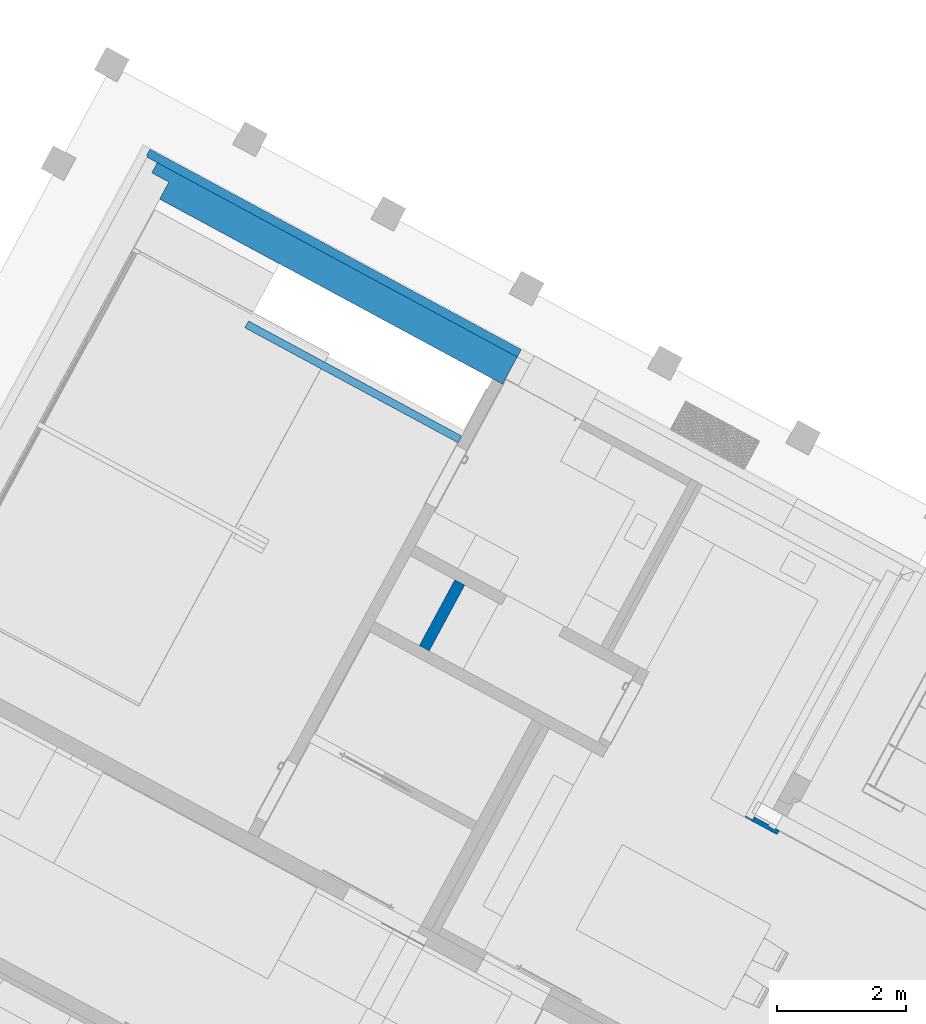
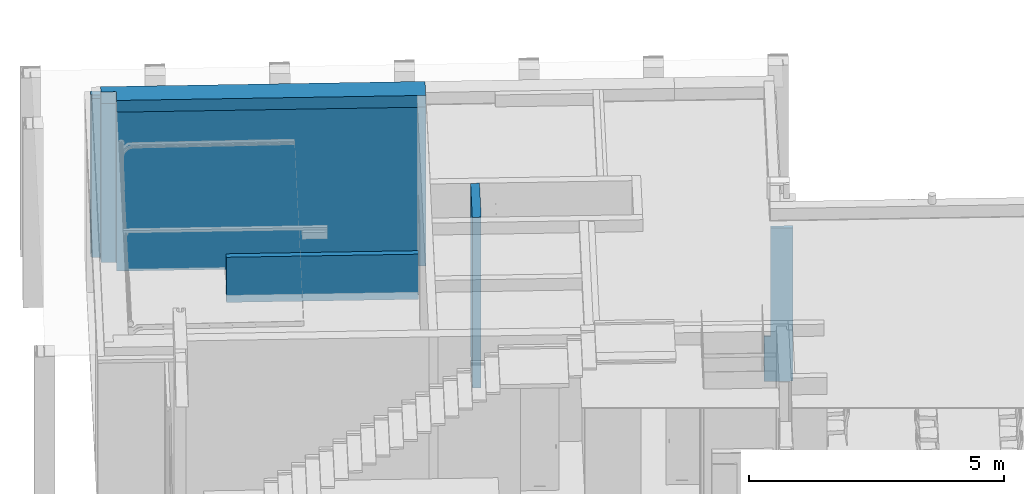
# One storey, part 19 of 52: 5 walls.
"""IFC2X3 building model written with IfcOpenShell, lengths in metres."""

from ifc_helpers import new_model, entity, si_unit, converted_unit, derived_unit, money_unit, direction, frame, origin_with_axes, place, context, subcontext, project, spatial, faceted_brep, material, material_list, type_object, element, save


model = new_model("IFC2X3")

# Units and contexts
model_context = context("Model", 3, precision=1e-05, world=origin_with_axes(), true_north=direction((0.0, 1.0)))
body_context = subcontext(model_context, "Body", "Model", "MODEL_VIEW")
ifc_project = project(units=[si_unit("LENGTHUNIT", "METRE"), si_unit("AREAUNIT", "SQUARE_METRE"), si_unit("VOLUMEUNIT", "CUBIC_METRE"), converted_unit("PLANEANGLEUNIT", "DEGREE", entity("IfcPlaneAngleMeasure", 0.0174532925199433), si_unit("PLANEANGLEUNIT", "RADIAN"), dimensions=[0, 0, 0, 0, 0, 0, 0]), money_unit("EUR"), converted_unit("TIMEUNIT", "Year", entity("IfcTimeMeasure", 31556926.0), si_unit("TIMEUNIT", "SECOND"), dimensions=[0, 0, 1, 0, 0, 0, 0]), si_unit("MASSUNIT", "GRAM", prefix="KILO"), si_unit("THERMODYNAMICTEMPERATUREUNIT", "DEGREE_CELSIUS"), si_unit("LUMINOUSINTENSITYUNIT", "LUMEN"), si_unit("ENERGYUNIT", "JOULE", prefix="MEGA"), derived_unit("THERMALCONDUCTANCEUNIT", [(si_unit("POWERUNIT", "WATT"), 1), (si_unit("LENGTHUNIT", "METRE"), -1), (si_unit("THERMODYNAMICTEMPERATUREUNIT", "KELVIN"), -1)]), derived_unit("SPECIFICHEATCAPACITYUNIT", [(si_unit("ENERGYUNIT", "JOULE"), 1), (si_unit("MASSUNIT", "GRAM", prefix="KILO"), -1), (si_unit("THERMODYNAMICTEMPERATUREUNIT", "KELVIN"), -1)]), derived_unit("MASSDENSITYUNIT", [(si_unit("MASSUNIT", "GRAM", prefix="KILO"), 1), (si_unit("VOLUMEUNIT", "CUBIC_METRE"), -1)])], contexts=[model_context])

# Site, building, storey
site_placement = place(None, frame((-3.949935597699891, 1.740105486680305, 0.0), z_axis=(0.0, 0.0, 1.0), x_axis=(0.8799804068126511, -0.475009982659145, 0.0)))
site = spatial("IfcSite", under=ifc_project, at=site_placement, Name="Gelände", CompositionType="ELEMENT")
building_placement = place(site_placement, origin_with_axes())
building = spatial("IfcBuilding", under=site, at=building_placement, Name="Gebäude", CompositionType="ELEMENT")
storey_placement = place(building_placement, origin_with_axes())
storey = spatial("IfcBuildingStorey", under=building, at=storey_placement, Name="Erdgeschoss", CompositionType="ELEMENT", Elevation=0.0)

# Walls
ifc_material_1 = material(Name="_SIWH - MW Kalksandstein")
wall_type_1 = type_object("IfcWallType", Name="_SIWH - WI | KS 17,5 | 17,5cm 175", PredefinedType="NOTDEFINED")
wall_1_placement = place(storey_placement, frame((11.32773525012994, 15.87469521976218, -0.18), z_axis=(0.0, 0.0, 1.0), x_axis=(1.943787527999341e-06, -0.9999999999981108, 0.0)))
element("IfcWall", 1, at=wall_1_placement, inside=storey, type_object=wall_type_1, material=ifc_material_1, Name="I-Wand024", context=body_context, shape_type="Brep", body=[
    faceted_brep([(1.161601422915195, 0.1750000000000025, 0.0), (1.161601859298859, 0.0, 0.0), (0.0, 0.0, 0.0), (-4.306483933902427e-07, 0.1749999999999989, 0.0), (1.161601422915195, 0.1750000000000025, 4.080000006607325), (1.161601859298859, 0.0, 4.080000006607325), (0.0, 0.0, 4.080000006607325), (-4.306483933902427e-07, 0.1750000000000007, 4.080000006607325)], [[[0, 1, 2, 3]], [[1, 0, 4, 5]], [[1, 5, 6, 2]], [[7, 3, 2, 6]], [[4, 0, 3, 7]], [[5, 4, 7, 6]]]),
])
ifc_material_2 = material(Name="_SIWH - Beton, Stahlbeton")
wall_type_2 = type_object("IfcWallType", Name="_SIWH - WI | Stb. 12 | 12cm 120", PredefinedType="NOTDEFINED")
wall_2_placement = place(storey_placement, frame((6.597401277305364, 17.89028332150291, -0.18), z_axis=(0.0, 0.0, 1.0), x_axis=(1.0, 0.0, 0.0)))
element("IfcWall", 2, at=wall_2_placement, inside=storey, type_object=wall_type_2, material=ifc_material_2, Name="I-Wand022", context=body_context, shape_type="Brep", body=[
    faceted_brep([(0.0, -0.120000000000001, 1.08), (3.764998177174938, -0.120000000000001, 1.08), (3.764998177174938, 0.0, 1.08), (0.0, 0.0, 1.08), (0.0, -0.120000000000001, 0.0), (3.764998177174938, -0.120000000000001, 0.0), (3.764998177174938, 0.0, 0.0), (0.0, 0.0, 0.0)], [[[0, 1, 2, 3]], [[4, 5, 1, 0]], [[2, 1, 5, 6]], [[3, 2, 6, 7]], [[4, 0, 3, 7]], [[7, 6, 5, 4]]]),
])
ifc_material_3 = material(Name="_SIWH - Installationswand, raumhoch")
ifc_material_4 = material(Name="_SIWH - Gipskarton")
ifc_material_list_1 = material_list([ifc_material_3, ifc_material_4, ifc_material_4])
wall_type_3 = type_object("IfcWallType", Name="_SIWH - WI | Vorsatz-GK 2-lagig | 7,5cm  75", PredefinedType="NOTDEFINED")
wall_3_placement = place(storey_placement, frame((17.16747696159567, 14.84304610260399, -0.3200000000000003), z_axis=(0.0, 0.0, 1.0), x_axis=(1.0, 0.0, 0.0)))
element("IfcWall", 3, at=wall_3_placement, inside=storey, type_object=wall_type_3, material=ifc_material_list_1, Name="L-Wand037", context=body_context, shape_type="Brep", body=[
    faceted_brep([(0.4450086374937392, -0.05000000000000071, 0.3200000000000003), (0.4450086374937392, 0.0, 0.3200000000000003), (0.4450086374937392, 0.0, 3.806181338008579), (0.4450086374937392, -0.04999999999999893, 3.806181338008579), (0.0, -2.783247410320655e-09, 0.3200000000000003), (0.0, -0.05000000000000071, 0.3200000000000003), (0.0, -1.669948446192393e-08, 1.22), (0.0, -1.669948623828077e-08, 3.806181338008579), (0.0, -0.04999999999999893, 3.806181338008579), (0.0, -0.05000000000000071, 1.22)], [[[0, 1, 2, 3]], [[4, 1, 0, 5]], [[1, 4, 6, 7, 2]], [[3, 2, 7, 8]], [[5, 0, 3, 8, 9]], [[4, 5, 9, 6]], [[7, 6, 9, 8]]]),
    faceted_brep([(0.2000042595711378, -0.05000000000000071, 0.1400000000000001), (0.2000042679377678, -0.0625, 0.1400000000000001), (-0.09999573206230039, -0.0625, 0.1400000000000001), (-0.09999574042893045, -0.05000000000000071, 0.1400000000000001), (0.4450086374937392, -0.05000000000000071, 0.1400000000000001), (0.4450086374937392, -0.0625, 0.1400000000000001), (0.4450086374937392, -0.0625, 3.806181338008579), (0.0, -0.0625, 3.806181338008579), (0.0, -0.0625, 1.22), (-0.125, -0.0625, 1.22), (-0.125, -0.0625, 0.1400000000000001), (-0.125, -0.05000000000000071, 0.1400000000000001), (-0.125, -0.04999999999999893, 1.22), (0.0, -0.04999999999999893, 1.22), (0.0, -0.04999999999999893, 3.806181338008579), (0.4450086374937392, -0.04999999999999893, 3.806181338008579)], [[[0, 1, 2, 3]], [[0, 4, 5, 1]], [[1, 5, 6, 7, 8, 9, 10, 2]], [[11, 3, 2, 10]], [[4, 0, 3, 11, 12, 13, 14, 15]], [[5, 4, 15, 6]], [[6, 15, 14, 7]], [[13, 8, 7, 14]], [[8, 13, 12, 9]], [[11, 10, 9, 12]]]),
    faceted_brep([(0.2000042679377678, -0.0625, 0.1400000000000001), (0.2000042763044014, -0.07499999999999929, 0.1400000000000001), (-0.09999572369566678, -0.07499999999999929, 0.1400000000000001), (-0.09999573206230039, -0.0625, 0.1400000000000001), (0.4450086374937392, -0.0625, 0.1400000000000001), (0.4450086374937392, -0.07499999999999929, 0.1400000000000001), (0.4450086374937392, -0.07499999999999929, 3.806181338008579), (0.0, -0.07499999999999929, 3.806181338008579), (0.0, -0.07499999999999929, 1.22), (-0.125, -0.07499999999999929, 1.22), (-0.125, -0.07499999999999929, 0.1400000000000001), (-0.125, -0.0625, 0.1400000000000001), (-0.125, -0.0625, 1.22), (0.0, -0.0625, 1.22), (0.0, -0.0625, 3.806181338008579), (0.4450086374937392, -0.0625, 3.806181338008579)], [[[0, 1, 2, 3]], [[0, 4, 5, 1]], [[1, 5, 6, 7, 8, 9, 10, 2]], [[11, 3, 2, 10]], [[4, 0, 3, 11, 12, 13, 14, 15]], [[5, 4, 15, 6]], [[6, 15, 14, 7]], [[13, 8, 7, 14]], [[8, 13, 12, 9]], [[11, 10, 9, 12]]]),
])
ifc_material_5 = material(Name="_SIWH - Dämmung, weich Mineralwolle")
ifc_material_6 = material(Name="_SIWH - Luftschicht vertikal")
ifc_material_7 = material(Name="_SIWH - MW Vormauerziegel")
ifc_material_list_2 = material_list([ifc_material_2, ifc_material_5, ifc_material_6, ifc_material_7])
wall_type_4 = type_object("IfcWallType", Name="_SIWH - WA | Stb. 30+WD 18+LS 2+Verblender 11,5 | 61,5 615", PredefinedType="NOTDEFINED")
wall_4_placement = place(storey_placement, frame((10.53739529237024, 19.20029480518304, -0.1800000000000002), z_axis=(0.0, 0.0, 1.0), x_axis=(-0.9999999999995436, 9.555231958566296e-07, 0.0)))
element("IfcWall", 4, at=wall_4_placement, inside=storey, type_object=wall_type_4, material=ifc_material_list_2, Name="A-Wand005", context=body_context, shape_type="Brep", body=[
    faceted_brep([(0.0, 0.0, 0.0), (0.0, 0.2999999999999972, 0.0), (6.054911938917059, 0.3000000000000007, 0.0), (6.054913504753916, 0.0, 0.0), (0.0, 0.0, 3.800000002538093), (0.0, 0.2999999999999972, 3.800000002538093), (6.054911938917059, 0.3000000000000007, 3.800000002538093), (6.054913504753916, 0.0, 3.800000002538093)], [[[0, 1, 2, 3]], [[4, 5, 1, 0]], [[1, 5, 6, 2]], [[7, 3, 2, 6]], [[4, 0, 3, 7]], [[5, 4, 7, 6]]]),
    faceted_brep([(0.0, 0.0, 0.0), (6.354913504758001, 0.0, 0.0), (6.354914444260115, -0.1800000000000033, 0.0), (0.0, -0.1799999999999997, 0.0), (0.0, 0.0, 3.800000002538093), (6.354913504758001, 0.0, 3.800000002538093), (6.354914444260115, -0.1800000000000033, 3.800000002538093), (0.0, -0.1799999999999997, 3.800000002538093)], [[[0, 1, 2, 3]], [[4, 5, 1, 0]], [[2, 1, 5, 6]], [[3, 2, 6, 7]], [[4, 0, 3, 7]], [[7, 6, 5, 4]]]),
    faceted_brep([(0.0, -0.1799999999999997, 0.0), (6.534914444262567, -0.1800000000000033, 0.0), (6.534914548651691, -0.1999999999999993, 0.0), (0.0, -0.1999999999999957, 0.0), (0.0, -0.1799999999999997, 3.800000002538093), (6.534914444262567, -0.1800000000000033, 3.800000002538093), (6.534914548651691, -0.1999999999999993, 3.800000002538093), (0.0, -0.1999999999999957, 3.800000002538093)], [[[0, 1, 2, 3]], [[4, 5, 1, 0]], [[2, 1, 5, 6]], [[3, 2, 6, 7]], [[4, 0, 3, 7]], [[7, 6, 5, 4]]]),
    faceted_brep([(0.0, -0.1999999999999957, 0.0), (6.554914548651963, -0.1999999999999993, 0.0), (6.554915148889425, -0.3150000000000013, 0.0), (0.0, -0.3150000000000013, 0.0), (0.0, -0.1999999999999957, 3.800000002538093), (6.554914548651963, -0.1999999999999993, 3.800000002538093), (6.554915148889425, -0.3150000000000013, 3.800000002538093), (0.0, -0.3150000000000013, 3.800000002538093)], [[[0, 1, 2, 3]], [[4, 5, 1, 0]], [[2, 1, 5, 6]], [[3, 2, 6, 7]], [[4, 0, 3, 7]], [[7, 6, 5, 4]]]),
])
ifc_material_list_3 = material_list([ifc_material_7, ifc_material_6, ifc_material_5, ifc_material_2])
wall_type_5 = type_object("IfcWallType", Name="_SIWH - Sturz Außenwand EG Garage 615 x 280", PredefinedType="NOTDEFINED")
wall_5_placement = place(storey_placement, frame((4.182481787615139, 19.20030087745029, 3.900000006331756), z_axis=(0.0, 0.0, 1.0), x_axis=(0.9999999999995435, -9.555231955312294e-07, 0.0)))
element("IfcWall", 5, at=wall_5_placement, inside=storey, type_object=wall_type_5, material=ifc_material_list_3, Name="A-Wand019", context=body_context, shape_type="Brep", body=[
    faceted_brep([(-0.2000016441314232, 0.3149999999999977, -0.2800000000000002), (-0.2000016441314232, 0.3149999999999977, -0.2000000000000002), (6.353914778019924, 0.3149999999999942, -0.2000000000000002), (6.353914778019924, 0.3149999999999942, -0.2800000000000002), (-0.2000010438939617, 0.1999999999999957, -0.2000000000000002), (-0.2000010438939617, 0.1999999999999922, -0.2800000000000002), (6.353914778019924, 0.1999999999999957, -0.2000000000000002), (6.353914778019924, 0.1999999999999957, -0.2800000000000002)], [[[0, 1, 2, 3]], [[4, 1, 0, 5]], [[1, 4, 6, 2]], [[7, 3, 2, 6]], [[5, 0, 3, 7]], [[4, 5, 7, 6]]]),
    faceted_brep([(-0.1800010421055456, 0.199999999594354, -0.2800000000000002), (-0.1800010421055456, 0.1999999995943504, -0.1999999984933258), (6.353914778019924, 0.1999999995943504, -0.2000000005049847), (6.353914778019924, 0.1999999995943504, -0.2800000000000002), (-0.1800009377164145, 0.1799999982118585, -0.1999999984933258), (-0.1800009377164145, 0.179999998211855, -0.2800000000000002), (6.353914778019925, 0.179999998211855, -0.1999999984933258), (6.353914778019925, 0.179999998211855, -0.2800000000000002)], [[[0, 1, 2, 3]], [[4, 1, 0, 5]], [[1, 4, 6, 2]], [[3, 2, 6, 7]], [[5, 0, 3, 7]], [[4, 5, 7, 6]]]),
    faceted_brep([(-9.390476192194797e-07, 0.1799999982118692, -0.2000000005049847), (-9.390476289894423e-07, 0.1799999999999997, 0.0), (6.353914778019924, 0.1799999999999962, 0.0), (6.353914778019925, 0.179999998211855, -0.1999999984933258), (4.544853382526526e-10, 0.0, 0.0), (4.544951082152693e-10, -1.788137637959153e-09, -0.2000000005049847), (6.353914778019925, 0.0, 0.0), (6.353914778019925, 0.0, -0.2800000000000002), (6.353914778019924, 0.1799999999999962, -0.2800000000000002), (-9.395021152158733e-07, 0.1799999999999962, -0.2800000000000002), (0.0, 0.0, -0.2800000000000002)], [[[0, 1, 2, 3]], [[4, 1, 0, 5]], [[1, 4, 6, 2]], [[7, 8, 3, 2, 6]], [[9, 0, 3, 8]], [[5, 0, 9, 10]], [[4, 5, 10, 7, 6]], [[10, 9, 8, 7]]]),
    faceted_brep([(0.3000000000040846, 0.0, -0.2000000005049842), (0.3000000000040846, 0.0, 0.0), (6.353914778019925, 0.0, 0.0), (6.353914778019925, 0.0, -0.2800000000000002), (0.3000000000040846, 0.0, -0.2800000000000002), (0.3000015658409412, -0.3000000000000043, 0.0), (0.3000015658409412, -0.3000000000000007, -0.2000000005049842), (6.353914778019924, -0.3000000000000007, 0.0), (6.353914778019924, -0.3000000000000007, -0.2800000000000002), (0.3000015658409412, -0.3000000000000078, -0.2800000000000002)], [[[0, 1, 2, 3, 4]], [[5, 1, 0, 6]], [[1, 5, 7, 2]], [[8, 3, 2, 7]], [[9, 4, 3, 8]], [[6, 0, 4, 9]], [[5, 6, 9, 8, 7]]]),
])

save(model, "model.ifc")
